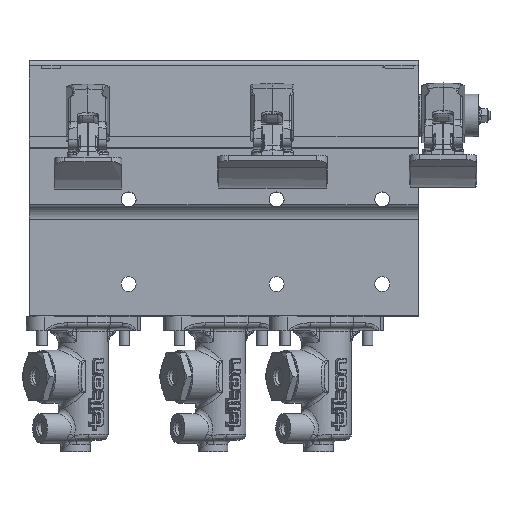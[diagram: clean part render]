
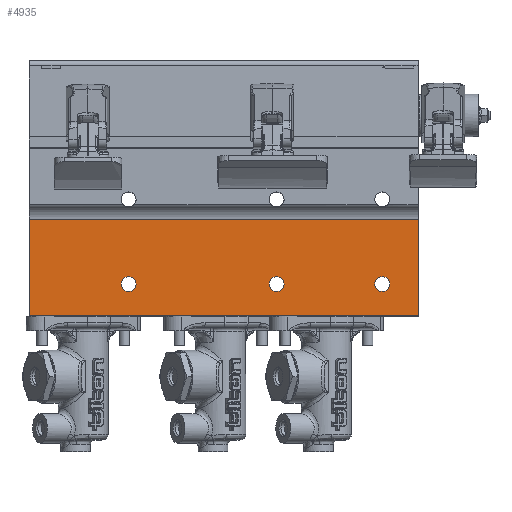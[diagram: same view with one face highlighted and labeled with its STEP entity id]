
A CAD part, top view. The second image highlights one B-rep face of the part: STEP entity #4935.
In plain terms, the highlighted planar face has unit normal (0, 0, 1).
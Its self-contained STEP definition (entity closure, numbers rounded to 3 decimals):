
#4935 = ADVANCED_FACE( '', ( #11358, #11359, #11360, #11361 ), #11362, .T. );
#11358 = FACE_BOUND( '', #52765, .T. );
#11359 = FACE_OUTER_BOUND( '', #52766, .T. );
#11360 = FACE_BOUND( '', #52767, .T. );
#11361 = FACE_BOUND( '', #52768, .T. );
#11362 = PLANE( '', #52769 );
#52765 = EDGE_LOOP( '', ( #103566 ) );
#52766 = EDGE_LOOP( '', ( #103567, #103568, #103569, #103570 ) );
#52767 = EDGE_LOOP( '', ( #103571 ) );
#52768 = EDGE_LOOP( '', ( #103572 ) );
#52769 = AXIS2_PLACEMENT_3D( '', #103573, #103574, #103575 );
#103566 = ORIENTED_EDGE( '', *, *, #119858, .T. );
#103567 = ORIENTED_EDGE( '', *, *, #116947, .F. );
#103568 = ORIENTED_EDGE( '', *, *, #120037, .T. );
#103569 = ORIENTED_EDGE( '', *, *, #116817, .T. );
#103570 = ORIENTED_EDGE( '', *, *, #120038, .T. );
#103571 = ORIENTED_EDGE( '', *, *, #117697, .T. );
#103572 = ORIENTED_EDGE( '', *, *, #114972, .T. );
#103573 = CARTESIAN_POINT( '', ( 0., 0., 58.42 ) );
#103574 = DIRECTION( '', ( 0., 0., 1. ) );
#103575 = DIRECTION( '', ( 1., 0., 0. ) );
#114972 = EDGE_CURVE( '', #124104, #124104, #124105, .F. );
#116817 = EDGE_CURVE( '', #127259, #127257, #127260, .T. );
#116947 = EDGE_CURVE( '', #127471, #127473, #127474, .T. );
#117697 = EDGE_CURVE( '', #128665, #128665, #128666, .F. );
#119858 = EDGE_CURVE( '', #131810, #131810, #131811, .F. );
#120037 = EDGE_CURVE( '', #127471, #127259, #132053, .F. );
#120038 = EDGE_CURVE( '', #127257, #127473, #132054, .T. );
#124104 = VERTEX_POINT( '', #138594 );
#124105 = CIRCLE( '', #138595, 4.5 );
#127257 = VERTEX_POINT( '', #151466 );
#127259 = VERTEX_POINT( '', #151469 );
#127260 = LINE( '', #151470, #151471 );
#127471 = VERTEX_POINT( '', #152051 );
#127473 = VERTEX_POINT( '', #152053 );
#127474 = LINE( '', #152054, #152055 );
#128665 = VERTEX_POINT( '', #157402 );
#128666 = CIRCLE( '', #157403, 4.5 );
#131810 = VERTEX_POINT( '', #171980 );
#131811 = CIRCLE( '', #171981, 4.5 );
#132053 = LINE( '', #173266, #173267 );
#132054 = LINE( '', #173268, #173269 );
#138594 = CARTESIAN_POINT( '', ( 233.1, 45.085, 58.42 ) );
#138595 = AXIS2_PLACEMENT_3D( '', #188961, #188962, #188963 );
#151466 = CARTESIAN_POINT( '', ( 16.396, 25.908, 58.42 ) );
#151469 = CARTESIAN_POINT( '', ( 16.396, 83.739, 58.42 ) );
#151470 = CARTESIAN_POINT( '', ( 16.396, 92.629, 58.42 ) );
#151471 = VECTOR( '', #191010, 1000. );
#152051 = CARTESIAN_POINT( '', ( 250.22, 83.739, 58.42 ) );
#152053 = CARTESIAN_POINT( '', ( 250.22, 25.908, 58.42 ) );
#152054 = CARTESIAN_POINT( '', ( 250.22, 92.629, 58.42 ) );
#152055 = VECTOR( '', #191207, 1000. );
#157402 = CARTESIAN_POINT( '', ( 80.7, 45.085, 58.42 ) );
#157403 = AXIS2_PLACEMENT_3D( '', #192011, #192012, #192013 );
#171980 = CARTESIAN_POINT( '', ( 169.6, 45.085, 58.42 ) );
#171981 = AXIS2_PLACEMENT_3D( '', #194239, #194240, #194241 );
#173266 = CARTESIAN_POINT( '', ( 0., 83.739, 58.42 ) );
#173267 = VECTOR( '', #194434, 1000. );
#173268 = CARTESIAN_POINT( '', ( 16.396, 25.908, 58.42 ) );
#173269 = VECTOR( '', #194435, 1000. );
#188961 = CARTESIAN_POINT( '', ( 228.6, 45.085, 58.42 ) );
#188962 = DIRECTION( '', ( 0., 0., 1. ) );
#188963 = DIRECTION( '', ( 1., 0., 0. ) );
#191010 = DIRECTION( '', ( 0., -1., 0. ) );
#191207 = DIRECTION( '', ( 0., -1., 0. ) );
#192011 = CARTESIAN_POINT( '', ( 76.2, 45.085, 58.42 ) );
#192012 = DIRECTION( '', ( 0., 0., 1. ) );
#192013 = DIRECTION( '', ( 1., 0., 0. ) );
#194239 = CARTESIAN_POINT( '', ( 165.1, 45.085, 58.42 ) );
#194240 = DIRECTION( '', ( 0., 0., 1. ) );
#194241 = DIRECTION( '', ( 1., 0., 0. ) );
#194434 = DIRECTION( '', ( 1., 0., 0. ) );
#194435 = DIRECTION( '', ( 1., 0., 0. ) );
